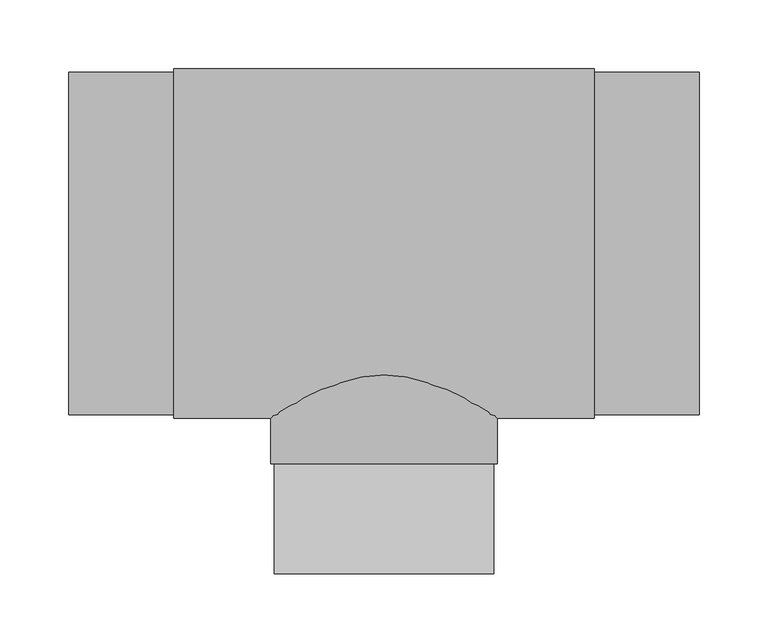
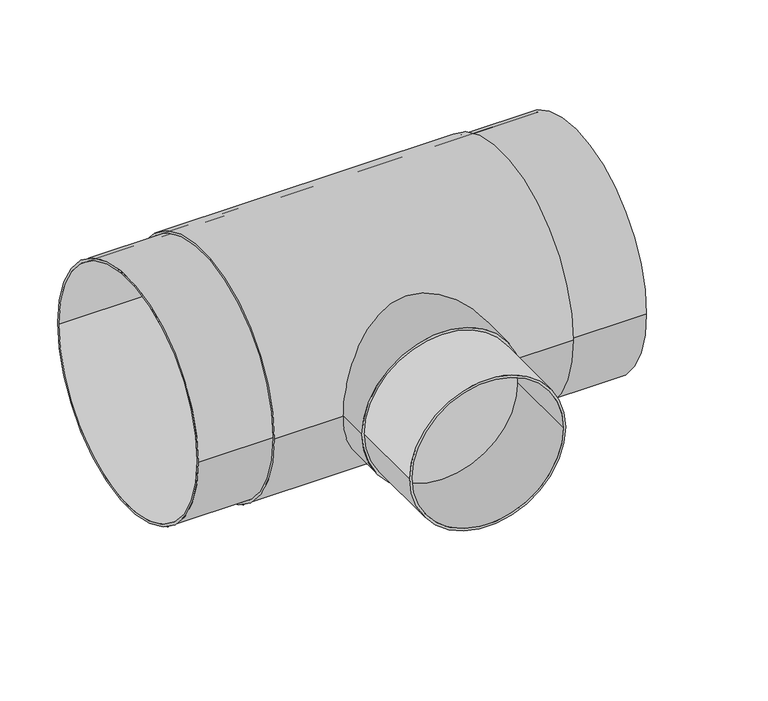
"""IFC4 building model written with IfcOpenShell, lengths in millimetres: pipe fitting geometry, EGB_VASEN_ PPR_Te a tope WXRB300_Te reducida a tope WXRB310 : Te a tope."""

from ifc_helpers import new_model, si_unit, point, frame, origin, origin_2d, place, context, project, spatial, circle_curve, trimmed, segment, composite_curve, outline, extrude, source, transform, mapped, element, save


def pipe_fitting_262493ba(model_context):
    return source(origin(), model_context, "Body", "SweptSolid", [
        extrude(outline(composite_curve([segment(trimmed(circle_curve(origin_2d(), 80.0), [point((0.0, 80.0))], [point((0.0, -80.0))], False, "CARTESIAN"), True, "CONTINUOUS"), segment(trimmed(circle_curve(origin_2d(), 80.0), [point((0.0, -80.0))], [point((0.0, 80.0))], False, "CARTESIAN"), True, "CONTINUOUS")], self_intersect=False), holes=[composite_curve([segment(trimmed(circle_curve(origin_2d(), 77.5), [point((0.0, 77.5))], [point((0.0, -77.5))], True, "CARTESIAN"), True, "CONTINUOUS"), segment(trimmed(circle_curve(origin_2d(), 77.5), [point((0.0, -77.5))], [point((0.0, 77.5))], True, "CARTESIAN"), True, "CONTINUOUS")], self_intersect=False)]), frame((0.0, -241.0, 0.0), z_axis=(0.0, 1.0, 0.0), x_axis=(0.0, 0.0, 1.0)), (0.0, 0.0, 1.0), 80.5),
        extrude(outline(composite_curve([segment(trimmed(circle_curve(origin_2d(), 82.5), [point((0.0, 82.5))], [point((0.0, -82.5))], False, "CARTESIAN"), True, "CONTINUOUS"), segment(trimmed(circle_curve(origin_2d(), 82.5), [point((0.0, -82.5))], [point((0.0, 82.5))], False, "CARTESIAN"), True, "CONTINUOUS")], self_intersect=False)), frame((0.0, -160.5, 0.0), z_axis=(0.0, 1.0, 0.0), x_axis=(0.0, 0.0, 1.0)), (0.0, 0.0, 1.0), 160.5),
        extrude(outline(composite_curve([segment(trimmed(circle_curve(origin_2d(), 127.5), [point((-127.5, 0.0))], [point((127.5, 0.0))], False, "CARTESIAN"), True, "CONTINUOUS"), segment(trimmed(circle_curve(origin_2d(), 127.5), [point((127.5, 0.0))], [point((-127.5, 0.0))], False, "CARTESIAN"), True, "CONTINUOUS")], self_intersect=False), holes=[composite_curve([segment(trimmed(circle_curve(origin_2d(), 125.0), [point((-125.0, 0.0))], [point((125.0, 0.0))], True, "CARTESIAN"), True, "CONTINUOUS"), segment(trimmed(circle_curve(origin_2d(), 125.0), [point((125.0, 0.0))], [point((-125.0, 0.0))], True, "CARTESIAN"), True, "CONTINUOUS")], self_intersect=False)]), frame((-153.3333333, 0.0, 0.0), z_axis=(1.0, 0.0, 0.0), x_axis=(0.0, 1.0, 0.0)), (0.0, 0.0, 1.0), 306.6666667),
        extrude(outline(composite_curve([segment(trimmed(circle_curve(origin_2d(), 125.0), [point((-125.0, 0.0))], [point((125.0, 0.0))], False, "CARTESIAN"), True, "CONTINUOUS"), segment(trimmed(circle_curve(origin_2d(), 125.0), [point((125.0, 0.0))], [point((-125.0, 0.0))], False, "CARTESIAN"), True, "CONTINUOUS")], self_intersect=False), holes=[composite_curve([segment(trimmed(circle_curve(origin_2d(), 122.5), [point((-122.5, 0.0))], [point((122.5, 0.0))], True, "CARTESIAN"), True, "CONTINUOUS"), segment(trimmed(circle_curve(origin_2d(), 122.5), [point((122.5, 0.0))], [point((-122.5, 0.0))], True, "CARTESIAN"), True, "CONTINUOUS")], self_intersect=False)]), frame((-230.0, 0.0, 0.0), z_axis=(1.0, 0.0, 0.0), x_axis=(0.0, 1.0, 0.0)), (0.0, 0.0, 1.0), 460.0),
    ])


if __name__ == "__main__":
    model = new_model("IFC4")
    model_context = context("Model", 3, world=origin())
    ifc_project = project(units=[si_unit("LENGTHUNIT", "METRE", prefix="MILLI")], contexts=[model_context])
    site = spatial("IfcSite", under=ifc_project)
    building = spatial("IfcBuilding", under=site)
    placement = place(None, origin())
    pipe_fitting_shape = pipe_fitting_262493ba(model_context)
    element("IfcPipeFitting", 1, ObjectType="EGB_VASEN_ PPR_Te a tope WXRB300_Te reducida a tope WXRB310 : Te a tope", at=placement, inside=building, context=model_context, shape_type="MappedRepresentation", body=[
        mapped(pipe_fitting_shape, transform((0.0, 0.0, 0.0), x_axis=(1.0, 0.0, 0.0), y_axis=(0.0, 1.0, 0.0), z_axis=(0.0, 0.0, 1.0))),
    ])
    save(model, "model.ifc")
